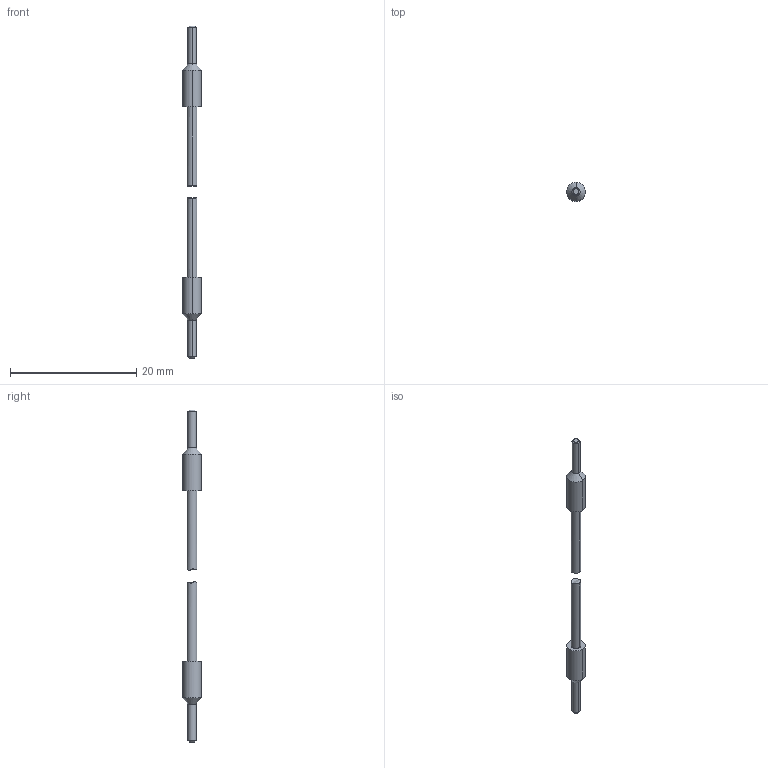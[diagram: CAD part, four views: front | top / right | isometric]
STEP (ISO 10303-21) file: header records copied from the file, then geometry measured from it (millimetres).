
FILE_DESCRIPTION((''),'2;1');
FILE_NAME('24N977-EN-D_PRT','2019-12-31T17:56:22',('qusrh3'),(''),'CREO PARAMETRIC BY PTC INC, 2019030','CREO PARAMETRIC BY PTC INC, 2019030','');
FILE_SCHEMA(('CONFIG_CONTROL_DESIGN'));
Length unit declared in the file: inch
Products named in the file (1): 24N977-EN-D_PRT
Bounding box: 3 x 3 x 52.53 mm (x, y, z)
Surface area: 318.9 mm2 (no closed solid volume)
Topology: 0 solids, 4 shells, 26 faces, 48 edges, 28 vertices
Faces by surface type: cylinder 12, cone 8, plane 4, extrusion 2
Entity records: 859 total; most frequent: CARTESIAN_POINT 298, DIRECTION 118, ORIENTED_EDGE 92, AXIS2_PLACEMENT_3D 48, EDGE_CURVE 48, VERTEX_POINT 28, EDGE_LOOP 26, FACE_OUTER_BOUND 26
